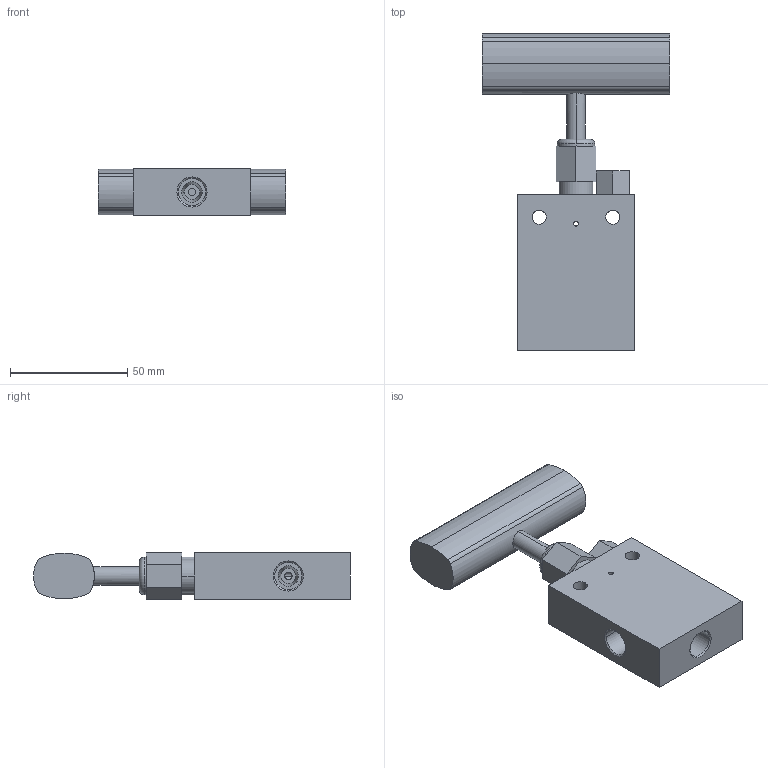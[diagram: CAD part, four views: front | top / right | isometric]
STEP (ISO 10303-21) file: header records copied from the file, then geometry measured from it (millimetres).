
FILE_DESCRIPTION (( 'STEP AP203' ), '1' );
FILE_NAME ('NV15VS04-T-00-00.STEP', '2023-02-22T08:08:15', ( 'USER' ), ( '' ), 'SwSTEP 2.0', 'SolidWorks 2020', '' );
FILE_SCHEMA (( 'CONFIG_CONTROL_DESIGN' ));
Length unit declared in the file: millimetre
Products named in the file (1): NV15VS04-T-00-00
Bounding box: 80 x 135.1 x 20 mm (x, y, z)
Volume: 102397.6 mm3; surface area: 23510.3 mm2
Topology: 1 solids, 1 shells, 95 faces, 225 edges, 144 vertices
Faces by surface type: cylinder 45, plane 32, cone 16, torus 2
Entity records: 3078 total; most frequent: CARTESIAN_POINT 713, DIRECTION 507, ORIENTED_EDGE 450, EDGE_CURVE 225, AXIS2_PLACEMENT_3D 198, VERTEX_POINT 144, EDGE_LOOP 119, LINE 111
